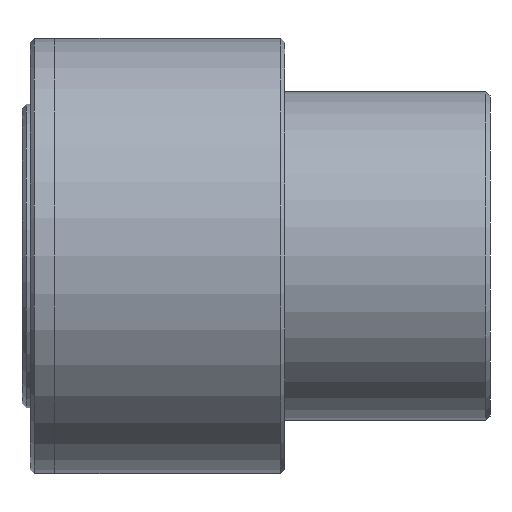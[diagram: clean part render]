
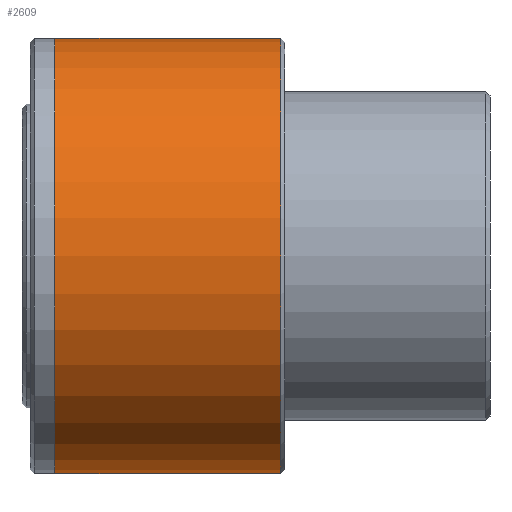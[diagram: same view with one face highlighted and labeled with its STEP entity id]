
A CAD part, front view. The second image highlights one B-rep face of the part: STEP entity #2609.
In plain terms, the highlighted cylindrical face has radius 26.5 mm (diameter 53 mm), a full revolution.
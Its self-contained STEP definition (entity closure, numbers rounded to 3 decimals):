
#207=FACE_OUTER_BOUND('',#364,.T.);
#364=EDGE_LOOP('',(#2148,#2149,#2150,#2151,#2152,#2153));
#533=LINE('',#4622,#660);
#660=VECTOR('',#3758,26.5);
#877=CIRCLE('',#2961,26.5);
#878=CIRCLE('',#2962,26.5);
#879=CIRCLE('',#2964,26.5);
#880=CIRCLE('',#2965,26.5);
#1153=VERTEX_POINT('',#4615);
#1154=VERTEX_POINT('',#4617);
#1155=VERTEX_POINT('',#4621);
#1156=VERTEX_POINT('',#4623);
#1509=EDGE_CURVE('',#1153,#1154,#877,.T.);
#1510=EDGE_CURVE('',#1154,#1153,#878,.T.);
#1511=EDGE_CURVE('',#1154,#1155,#533,.T.);
#1512=EDGE_CURVE('',#1155,#1156,#879,.T.);
#1513=EDGE_CURVE('',#1156,#1155,#880,.T.);
#2148=ORIENTED_EDGE('',*,*,#1509,.F.);
#2149=ORIENTED_EDGE('',*,*,#1510,.F.);
#2150=ORIENTED_EDGE('',*,*,#1511,.T.);
#2151=ORIENTED_EDGE('',*,*,#1512,.T.);
#2152=ORIENTED_EDGE('',*,*,#1513,.T.);
#2153=ORIENTED_EDGE('',*,*,#1511,.F.);
#2474=CYLINDRICAL_SURFACE('',#2963,26.5);
#2609=ADVANCED_FACE('',(#207),#2474,.T.);
#2961=AXIS2_PLACEMENT_3D('',#4618,#3752,#3753);
#2962=AXIS2_PLACEMENT_3D('',#4619,#3754,#3755);
#2963=AXIS2_PLACEMENT_3D('',#4620,#3756,#3757);
#2964=AXIS2_PLACEMENT_3D('',#4624,#3759,#3760);
#2965=AXIS2_PLACEMENT_3D('',#4625,#3761,#3762);
#3752=DIRECTION('center_axis',(1.,0.,0.));
#3753=DIRECTION('ref_axis',(0.,-1.,0.));
#3754=DIRECTION('center_axis',(1.,0.,0.));
#3755=DIRECTION('ref_axis',(0.,-1.,0.));
#3756=DIRECTION('center_axis',(1.,0.,0.));
#3757=DIRECTION('ref_axis',(0.,1.,0.));
#3758=DIRECTION('',(-1.,0.,0.));
#3759=DIRECTION('center_axis',(1.,0.,0.));
#3760=DIRECTION('ref_axis',(0.,0.,-1.));
#3761=DIRECTION('center_axis',(1.,0.,0.));
#3762=DIRECTION('ref_axis',(0.,0.,-1.));
#4615=CARTESIAN_POINT('',(31.5,26.5,0.));
#4617=CARTESIAN_POINT('',(31.5,-26.5,0.));
#4618=CARTESIAN_POINT('Origin',(31.5,0.,0.));
#4619=CARTESIAN_POINT('Origin',(31.5,0.,0.));
#4620=CARTESIAN_POINT('Origin',(18.,0.,0.));
#4621=CARTESIAN_POINT('',(4.,-26.5,0.));
#4622=CARTESIAN_POINT('',(18.,-26.5,0.));
#4623=CARTESIAN_POINT('',(4.,26.5,0.));
#4624=CARTESIAN_POINT('Origin',(4.,0.,0.));
#4625=CARTESIAN_POINT('Origin',(4.,0.,0.));
